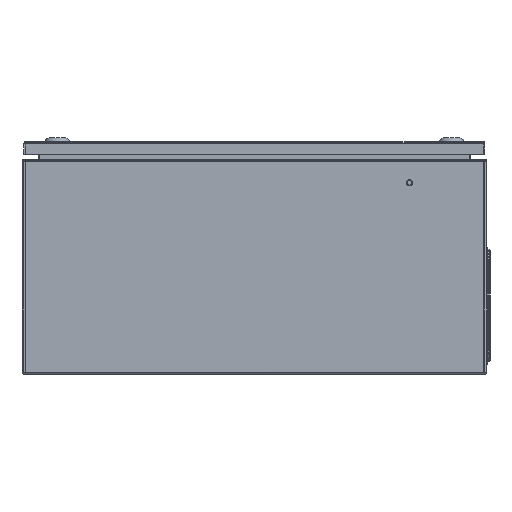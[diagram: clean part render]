
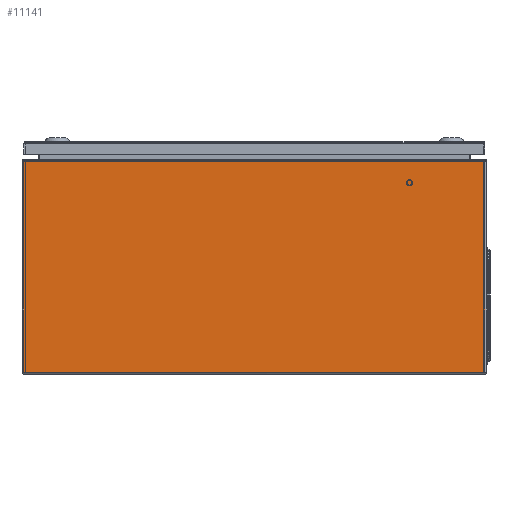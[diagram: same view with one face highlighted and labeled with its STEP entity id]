
A CAD part, left-side view. The second image highlights one B-rep face of the part: STEP entity #11141.
In plain terms, the highlighted planar face has unit normal (-1, 0, 0).
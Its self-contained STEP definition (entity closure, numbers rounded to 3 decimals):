
#561=LINE('',#17284,#1319);
#562=LINE('',#17287,#1320);
#563=LINE('',#17289,#1321);
#564=LINE('',#17291,#1322);
#1319=VECTOR('',#13591,1000.);
#1320=VECTOR('',#13592,1000.);
#1321=VECTOR('',#13593,1000.);
#1322=VECTOR('',#13594,1000.);
#2162=ORIENTED_EDGE('',*,*,#5128,.T.);
#2163=ORIENTED_EDGE('',*,*,#5129,.F.);
#2164=ORIENTED_EDGE('',*,*,#5130,.F.);
#2165=ORIENTED_EDGE('',*,*,#5131,.T.);
#5128=EDGE_CURVE('',#6604,#6605,#561,.T.);
#5129=EDGE_CURVE('',#6606,#6605,#562,.T.);
#5130=EDGE_CURVE('',#6607,#6606,#563,.T.);
#5131=EDGE_CURVE('',#6607,#6604,#564,.T.);
#6604=VERTEX_POINT('',#17285);
#6605=VERTEX_POINT('',#17286);
#6606=VERTEX_POINT('',#17288);
#6607=VERTEX_POINT('',#17290);
#8338=EDGE_LOOP('',(#2162,#2163,#2164,#2165));
#9606=FACE_BOUND('',#8338,.T.);
#10824=PLANE('',#11981);
#11141=ADVANCED_FACE('',(#9606),#10824,.T.);
#11981=AXIS2_PLACEMENT_3D('',#17283,#13589,#13590);
#13589=DIRECTION('',(-1.,0.,0.));
#13590=DIRECTION('',(0.,0.,1.));
#13591=DIRECTION('',(0.,0.,-1.));
#13592=DIRECTION('',(0.,1.,0.));
#13593=DIRECTION('',(0.,0.,-1.));
#13594=DIRECTION('',(0.,1.,0.));
#17283=CARTESIAN_POINT('',(-400.,-277.,2.5));
#17284=CARTESIAN_POINT('',(-400.,-2.5,600.));
#17285=CARTESIAN_POINT('',(-400.,-2.5,597.5));
#17286=CARTESIAN_POINT('',(-400.,-2.5,2.5));
#17287=CARTESIAN_POINT('',(-400.,-277.,2.5));
#17288=CARTESIAN_POINT('',(-400.,-274.5,2.5));
#17289=CARTESIAN_POINT('',(-400.,-274.5,600.));
#17290=CARTESIAN_POINT('',(-400.,-274.5,597.5));
#17291=CARTESIAN_POINT('',(-400.,-277.,597.5));
